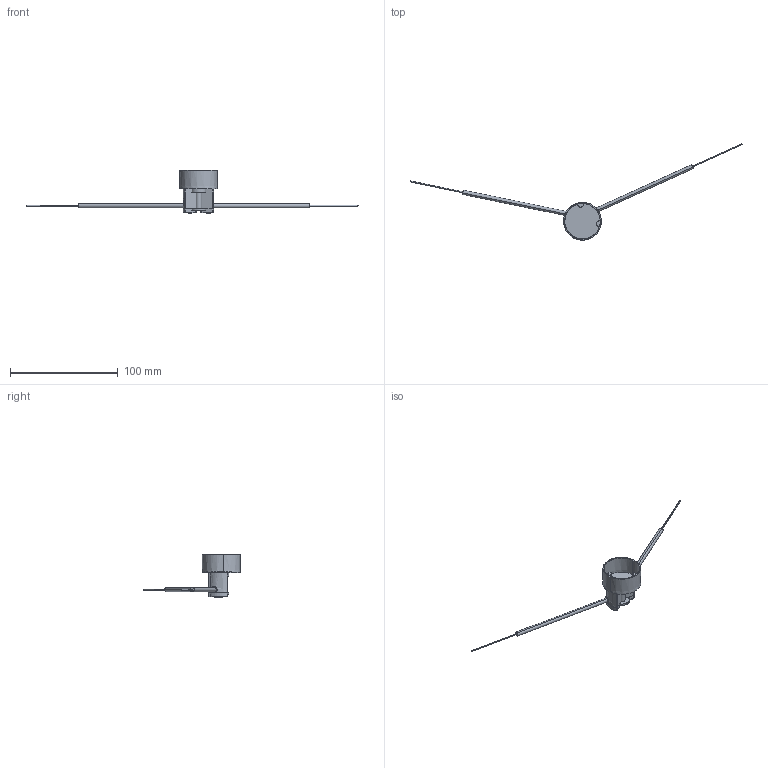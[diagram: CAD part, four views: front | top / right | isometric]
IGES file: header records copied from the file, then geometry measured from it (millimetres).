
Start section: SolidWorks IGES file using analytic representation for surfaces
Global section: file name: C:\Users\Toshiba\Desktop\FU-3PRO.IGS; native system: SolidWorks 2014; preprocessor: SolidWorks 2014; author: Toshiba; date: 160621.083755; units: metre
Bounding box: 307.86 x 89.29 x 40.22 mm (x, y, z)
Surface area: 12123.9 mm2 (no closed solid volume)
Topology: 0 solids, 0 shells, 163 faces, 2226 edges, 2224 vertices
Faces by surface type: bspline 86, revolution 77
